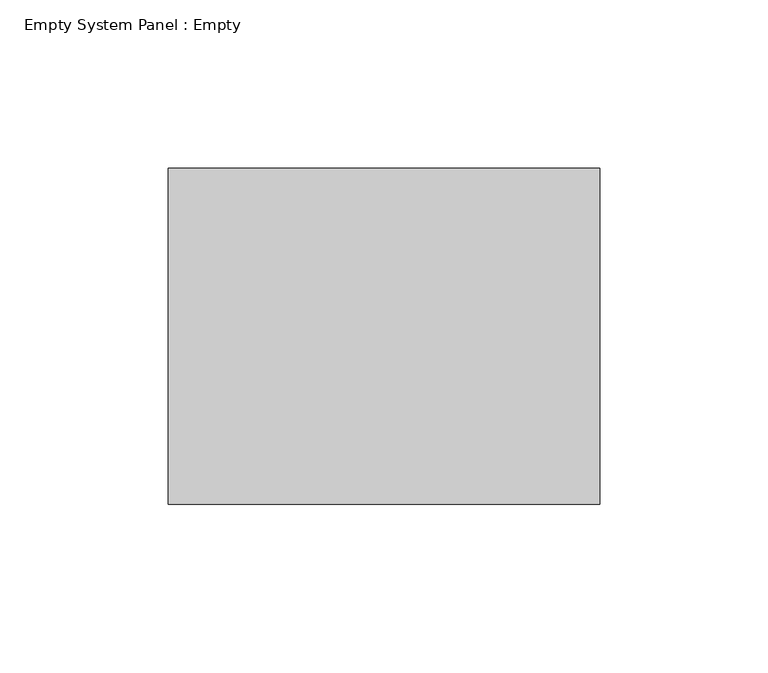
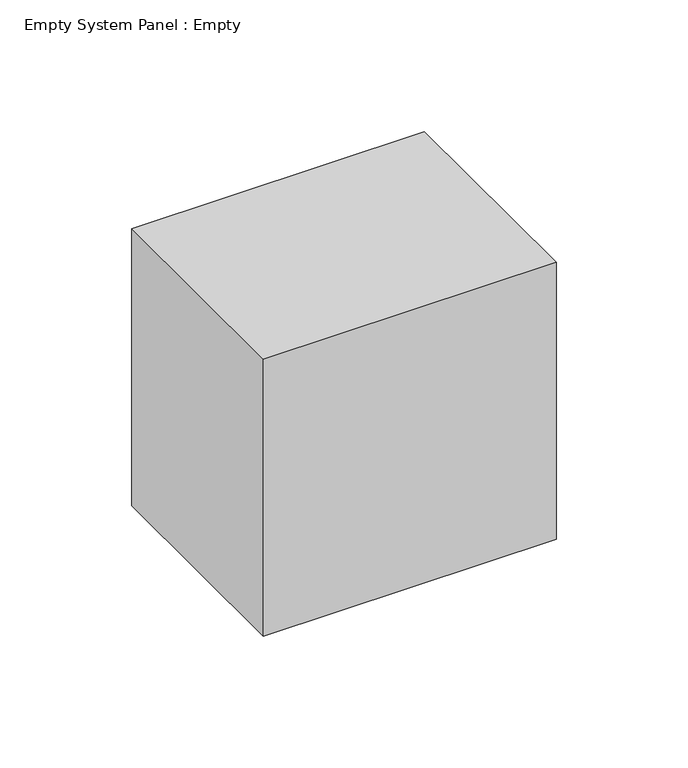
"""IFC4 building model written with IfcOpenShell, lengths in millimetres: plate geometry, Empty System Panel : Empty."""

from ifc_helpers import new_model, si_unit, origin, origin_with_axes, place, context, project, spatial, polyline, outline, extrude, source, transform, mapped, element, save


def empty_system_panel_empty_5a3607ba(model_context):
    return source(origin(), model_context, "Body", "SweptSolid", [
        extrude(outline(polyline([(64.187805, 50.0), (-64.187805, 50.0), (-64.187805, 150.0), (64.187805, 150.0), (64.187805, 50.0)])), origin_with_axes(), (0.0, 0.0, 1.0), 128.37561),
    ])


if __name__ == "__main__":
    model = new_model("IFC4")
    model_context = context("Model", 3, world=origin())
    ifc_project = project(units=[si_unit("LENGTHUNIT", "METRE", prefix="MILLI")], contexts=[model_context])
    site = spatial("IfcSite", under=ifc_project)
    building = spatial("IfcBuilding", under=site)
    placement = place(None, origin())
    empty_system_panel_empty_shape = empty_system_panel_empty_5a3607ba(model_context)
    element("IfcPlate", 1, ObjectType="Empty System Panel : Empty", at=placement, inside=building, context=model_context, shape_type="MappedRepresentation", body=[
        mapped(empty_system_panel_empty_shape, transform((0.0, 0.0, 0.0), x_axis=(1.0, 0.0, 0.0), y_axis=(0.0, 1.0, 0.0), z_axis=(0.0, 0.0, 1.0))),
    ])
    save(model, "model.ifc")
